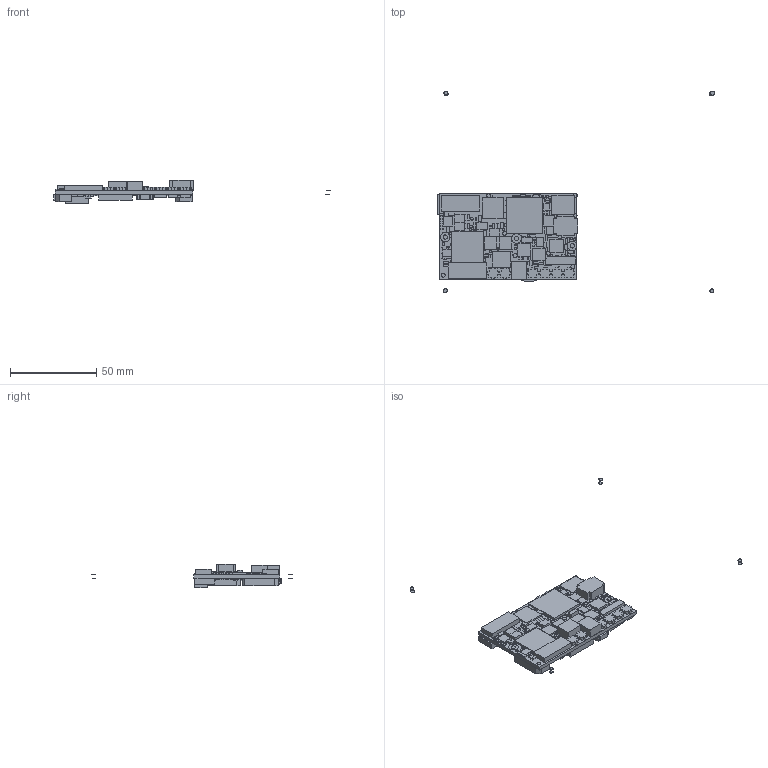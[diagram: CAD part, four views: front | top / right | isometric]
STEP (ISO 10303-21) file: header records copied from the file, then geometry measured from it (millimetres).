
FILE_DESCRIPTION(/* description */ ('PCB Design'),/* implementation_level */ '2;1');
FILE_NAME(/* name */ 'LDVC_R4',/* time_stamp */ '2017-11-06T13:37:00+02:00',/* author */ ('gk72'),/* organization */ (''),/* preprocessor_version */ 'ST-DEVELOPER v15',/* originating_system */ 'allegro_16.6-2015S090',/* authorisation */ '');
FILE_SCHEMA (('AUTOMOTIVE_DESIGN'));
Length unit declared in the file: millimetre
Products named in the file (62): LDVC_R4; BOARD; COMPONENTS; CJS-1201TA; FDFN1212-4LD-PL-9; SDFN4; SOT23-6; MX503471-0200; LQH32C51; DBV5; SC6; MICROFET-6; MX53261-1471; ABM8G; TL3700AF160Q; TQFP_128; QFN40_6X6X1MM; MH5P5X2P5; 0532610371; TQFN16; TDFN8; QFN24_5X3; FBGA216-P04; QFN24; QSH-030-01-L-D-A-K; BGA624; QFN32; SEML-115-02-03P0-H-D-WT; QFN24_4X4MM_SLUG; DFN16; H1102_XFMR16_SM; SOIC8; SOT353; X32_3P2X2P5; C0201_S; C0603; C0402; C0201; LED0603; LED0402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
Assembly tree (837 placements, depth 3):
  LDVC_R4
    BOARD
    COMPONENTS
      CJS-1201TA
      FDFN1212-4LD-PL-9
      SDFN4  x2
      SOT23-6
      MX503471-0200
      LQH32C51
      DBV5
      SC6
      MICROFET-6  x2
      MX53261-1471
      ABM8G
      TL3700AF160Q
      TQFP_128
      QFN40_6X6X1MM  x4
      MH5P5X2P5  x3
      0532610371
      TQFN16
      TDFN8  x2
      QFN24_5X3
      FBGA216-P04
      QFN24
      QSH-030-01-L-D-A-K  x2
      BGA624
      QFN32
      SEML-115-02-03P0-H-D-WT
      QFN24_4X4MM_SLUG
      DFN16  x2
      H1102_XFMR16_SM
      SOIC8  x3
      SOT353
      X32_3P2X2P5
      C0201_S  x172
      C0603  x68
      C0402  x162
      C0201  x29
      LED0603  x6
      LED0402
      FB0603  x22
      C1808
      IND_0603
      R0402  x181
      R0201_S  x51
      R0805  x6
      SH0603
      C0805  x9
      TP_PTH_035_018_MIL  x7
      C035S  x15
      FID40  x24
      IHLP-1616BZ-01  x3
      MBGA164
      FH28-15S-0P5SH
      MICRORF-SMT  x6
      SOT23
      POWERDI123
      R0201  x17
      QTH020-01-F-D-DP-A  x2
      SIT8103_3P2X2P5
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Bounding box: 160.8 x 117.19 x 13.53 mm (x, y, z)
Surface area: 33859.5 mm2 (no closed solid volume)
Topology: 0 solids, 836 shells, 5099 faces, 11138 edges, 6846 vertices
Faces by surface type: plane 4961, cylinder 138
Entity records: 20179 total; most frequent: DIRECTION 2894, AXIS2_PLACEMENT_3D 2211, ORIENTED_EDGE 1926, CARTESIAN_POINT 1784, EDGE_CURVE 1044, VECTOR 948, LINE 948, PRODUCT_DEFINITION_SHAPE 899
